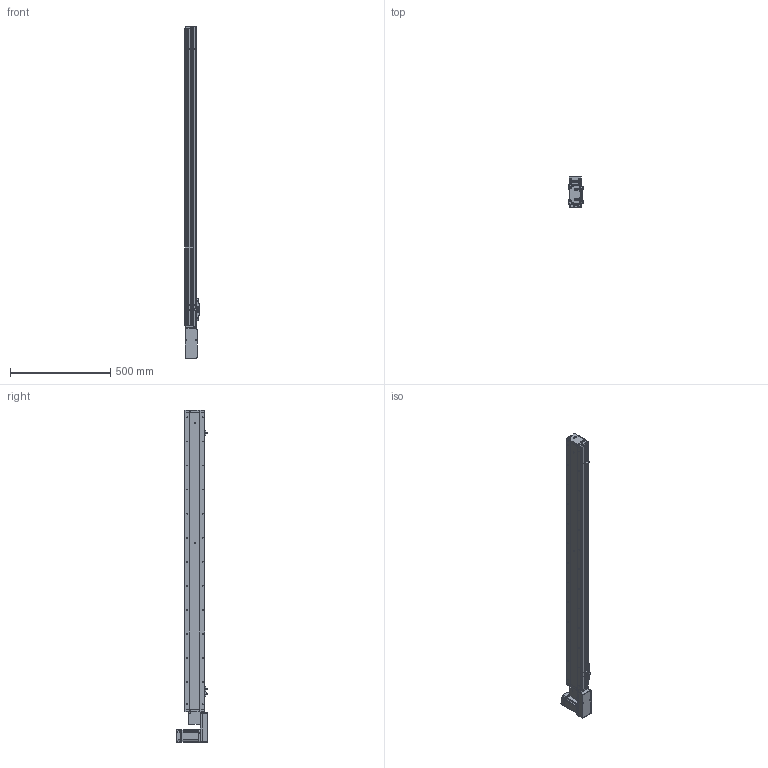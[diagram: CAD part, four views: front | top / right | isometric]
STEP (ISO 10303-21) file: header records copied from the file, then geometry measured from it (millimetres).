
FILE_DESCRIPTION (( 'STEP AP214' ), '1' );
FILE_NAME ('KSD100B-S1300-MRB-CR.STEP', '2019-09-07T09:17:29', ( '微软用户' ), ( '微软中国' ), 'SwSTEP 2.0', 'SolidWorks 2014', '' );
FILE_SCHEMA (( 'AUTOMOTIVE_DESIGN' ));
Length unit declared in the file: millimetre
Products named in the file (15): 100宽滚珠螺姆安装板1; 100遵裔啣揤啣; 100遵裔啣1300俴最; 100宽侧板1300行程同步带; 100宽底板全封闭1300行程同步带; KSD100B-S1300-MRB-CR; MHMD042G1CA_2_03; 悵誘欶奻狟殏; 100宽马达安装板连板上下折丝杆同步带; U倰嫖萇EEㄜSX672; 感应片100宽全封闭; 100宽马达安装板同步带右; 100遵鎮湛假蚾啣蜊; 100宽端板同步带全封闭; 100宽滚珠螺姆安装板1防护罩
Assembly tree (18 placements, depth 2):
  KSD100B-S1300-MRB-CR
    100宽底板全封闭1300行程同步带
    100宽侧板1300行程同步带  x2
    100遵裔啣1300俴最
    100遵裔啣揤啣  x2
    100宽滚珠螺姆安装板1
    100宽滚珠螺姆安装板1防护罩
    100宽端板同步带全封闭
    100遵鎮湛假蚾啣蜊
    100宽马达安装板同步带右
    感应片100宽全封闭
    U倰嫖萇EEㄜSX672  x3
    100宽马达安装板连板上下折丝杆同步带
    悵誘欶奻狟殏
    MHMD042G1CA_2_03
Bounding box: 70 x 156.2 x 1657 mm (x, y, z)
Volume: 3037502 mm3; surface area: 1335115.2 mm2
Topology: 17 solids, 18 shells, 1929 faces, 5394 edges, 3421 vertices
Faces by surface type: cylinder 881, plane 741, cone 287, bspline 20
Entity records: 68466 total; most frequent: CARTESIAN_POINT 10606, DIRECTION 9364, ORIENTED_EDGE 8608, EDGE_CURVE 4376, AXIS2_PLACEMENT_3D 3417, VERTEX_POINT 2899, LINE 2530, VECTOR 2530
